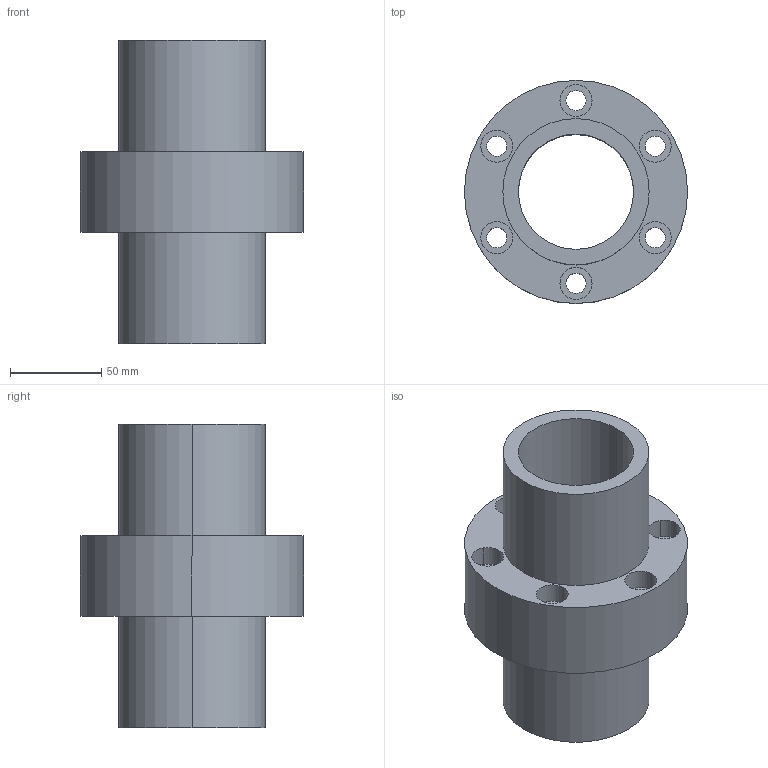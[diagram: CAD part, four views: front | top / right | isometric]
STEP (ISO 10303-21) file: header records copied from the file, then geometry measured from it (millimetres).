
FILE_DESCRIPTION((''),'2;1');
FILE_NAME('63-6T6','2008-04-07T',('yanyu'),(''),'PRO/ENGINEER BY PARAMETRIC TECHNOLOGY CORPORATION, 2005070','PRO/ENGINEER BY PARAMETRIC TECHNOLOGY CORPORATION, 2005070','');
FILE_SCHEMA(('CONFIG_CONTROL_DESIGN'));
Length unit declared in the file: millimetre
Products named in the file (1): 63-6T6
Bounding box: 122 x 122 x 166 mm (x, y, z)
Volume: 575438.9 mm3; surface area: 106856.6 mm2
Topology: 1 solids, 1 shells, 42 faces, 104 edges, 72 vertices
Faces by surface type: cylinder 32, plane 10
Entity records: 1370 total; most frequent: DIRECTION 260, CARTESIAN_POINT 218, ORIENTED_EDGE 208, AXIS2_PLACEMENT_3D 114, EDGE_CURVE 104, VERTEX_POINT 72, CIRCLE 72, EDGE_LOOP 64
